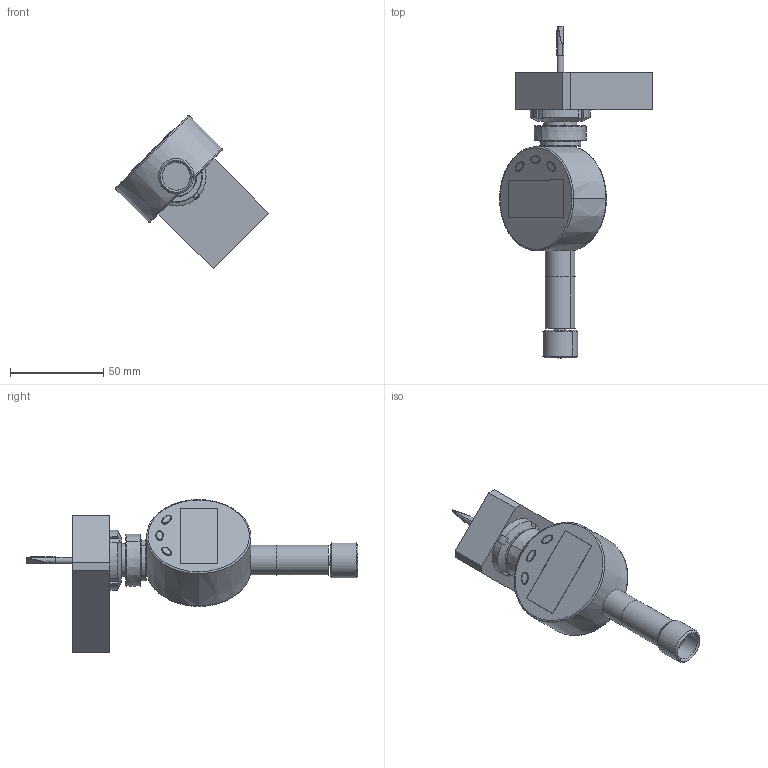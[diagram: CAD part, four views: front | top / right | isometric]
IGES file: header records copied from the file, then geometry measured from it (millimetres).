
Start section: START RECORD GO HERE.
Global section: file name: S0003_ZSB_MESSUHR_STECKBAR_gerade_Schwert_AllCATPart.igs; native system: IBM CATIA IGES - CATIA Version 5 Release 19 ; preprocessor: CATIA Version 5 Release 19 ; author: Administrator; organization: SCHROPPFSC; date: 20101107.185236; units: millimetre
Bounding box: 82.07 x 178.2 x 82.07 mm (x, y, z)
Surface area: 61641.9 mm2 (no closed solid volume)
Topology: 0 solids, 0 shells, 425 faces, 1878 edges, 1871 vertices
Faces by surface type: revolution 264, plane 109, bspline 40, extrusion 12
